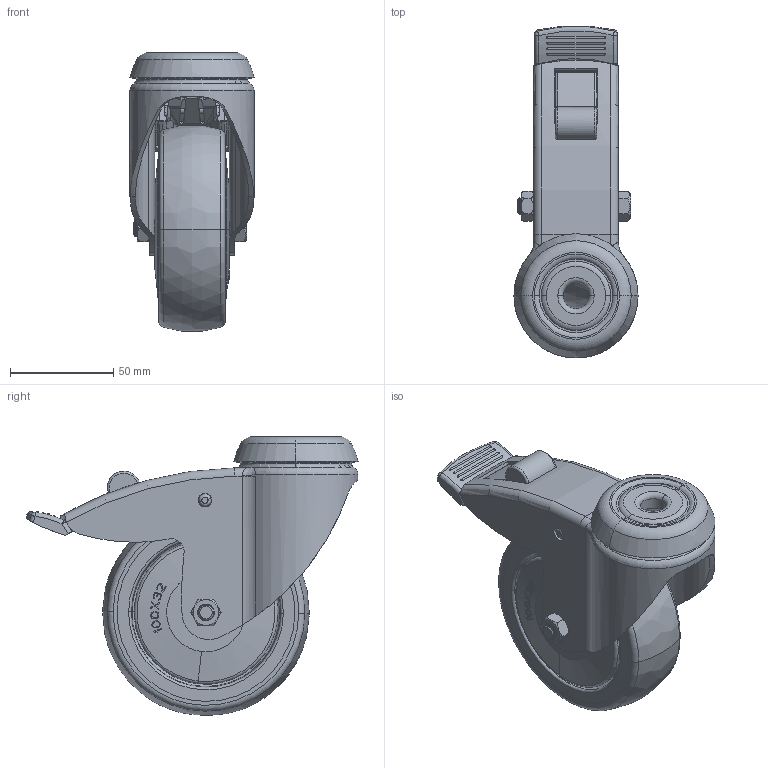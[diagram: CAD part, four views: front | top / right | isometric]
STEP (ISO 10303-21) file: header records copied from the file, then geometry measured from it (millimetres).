
FILE_DESCRIPTION((''),'2;1');
FILE_NAME('5104_ASM','2013-05-09T',('long-way'),(''),'PRO/ENGINEER BY PARAMETRIC TECHNOLOGY CORPORATION, 2011310','PRO/ENGINEER BY PARAMETRIC TECHNOLOGY CORPORATION, 2011310','');
FILE_SCHEMA(('CONFIG_CONTROL_DESIGN'));
Length unit declared in the file: millimetre
Products named in the file (52): 100-TENTE-ZJ__1; MANIFOLD_SOLID_BREP_3933; MANIFOLD_SOLID_BREP_3971; MANIFOLD_SOLID_BREP_4009; MANIFOLD_SOLID_BREP_4047; MANIFOLD_SOLID_BREP_4085; MANIFOLD_SOLID_BREP_4123; MANIFOLD_SOLID_BREP_4161; MANIFOLD_SOLID_BREP_4199; MANIFOLD_SOLID_BREP_4237; MANIFOLD_SOLID_BREP_4275; MANIFOLD_SOLID_BREP_4313; MANIFOLD_SOLID_BREP_4351; MANIFOLD_SOLID_BREP_4389; MANIFOLD_SOLID_BREP_4427; MANIFOLD_SOLID_BREP_4465; MANIFOLD_SOLID_BREP_4503; MANIFOLD_SOLID_BREP_4541; 6BJ__1_ASM; PRT0003; PRT0004; MANIFOLD_SOLID_BREP_10991; MANIFOLD_SOLID_BREP_11029; MANIFOLD_SOLID_BREP_11067; MANIFOLD_SOLID_BREP_11105; MANIFOLD_SOLID_BREP_11143; MANIFOLD_SOLID_BREP_11181; MANIFOLD_SOLID_BREP_11219; MANIFOLD_SOLID_BREP_11257; MANIFOLD_SOLID_BREP_11295; MANIFOLD_SOLID_BREP_11333; MANIFOLD_SOLID_BREP_11371; MANIFOLD_SOLID_BREP_11409; MANIFOLD_SOLID_BREP_11447; MANIFOLD_SOLID_BREP_11485; MANIFOLD_SOLID_BREP_11523; MANIFOLD_SOLID_BREP_11561; MANIFOLD_SOLID_BREP_11599; 5BJ__1_ASM; 150-TENTE-SAWEI__1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
Assembly tree (52 placements, depth 5):
  5104_ASM
    100TENTE_ASM_4_ASM
      100-TENTE-ZJ__1
      6BJ__1_ASM
        MANIFOLD_SOLID_BREP_3933
        MANIFOLD_SOLID_BREP_3971
        MANIFOLD_SOLID_BREP_4009
        MANIFOLD_SOLID_BREP_4047
        MANIFOLD_SOLID_BREP_4085
        MANIFOLD_SOLID_BREP_4123
        MANIFOLD_SOLID_BREP_4161
        MANIFOLD_SOLID_BREP_4199
        MANIFOLD_SOLID_BREP_4237
        MANIFOLD_SOLID_BREP_4275
        MANIFOLD_SOLID_BREP_4313
        MANIFOLD_SOLID_BREP_4351
        MANIFOLD_SOLID_BREP_4389
        MANIFOLD_SOLID_BREP_4427
        MANIFOLD_SOLID_BREP_4465
        MANIFOLD_SOLID_BREP_4503
        MANIFOLD_SOLID_BREP_4541
      PRT0003
      PRT0004
      5BJ__1_ASM
        MANIFOLD_SOLID_BREP_10991
        MANIFOLD_SOLID_BREP_11029
        MANIFOLD_SOLID_BREP_11067
        MANIFOLD_SOLID_BREP_11105
        MANIFOLD_SOLID_BREP_11143
        MANIFOLD_SOLID_BREP_11181
        MANIFOLD_SOLID_BREP_11219
        MANIFOLD_SOLID_BREP_11257
        MANIFOLD_SOLID_BREP_11295
        MANIFOLD_SOLID_BREP_11333
        MANIFOLD_SOLID_BREP_11371
        MANIFOLD_SOLID_BREP_11409
        MANIFOLD_SOLID_BREP_11447
        MANIFOLD_SOLID_BREP_11485
        MANIFOLD_SOLID_BREP_11523
        MANIFOLD_SOLID_BREP_11561
        MANIFOLD_SOLID_BREP_11599
      150-TENTE-SAWEI__1
      150-TENTE-MP__1
      100-TEMTE-DANLEN__ASM_1_ASM
        100-TENTE-NEIXIN__1
        100-TENTE-ZHOUCHANG__1_ASM
          BREP_WITH_VOIDS_28870
          MANIFOLD_SOLID_BREP_28976
        100-TENTE-BAOJAO__1
        100-TENTE-ZHUANGXIGUAI__1  x2
      M8X60LS__1
      M8LM__1
Bounding box: 60 x 160.51 x 134.74 mm (x, y, z)
Volume: 248799.7 mm3; surface area: 153918.5 mm2
Topology: 47 solids, 48 shells, 1463 faces, 4156 edges, 2661 vertices
Faces by surface type: plane 678, cylinder 321, torus 145, sphere 126, cone 108, bspline 82, extrusion 3
Entity records: 49879 total; most frequent: CARTESIAN_POINT 18523, ORIENTED_EDGE 6656, DIRECTION 6251, EDGE_CURVE 3328, AXIS2_PLACEMENT_3D 2563, VERTEX_POINT 2227, EDGE_LOOP 1293, CIRCLE 1265
